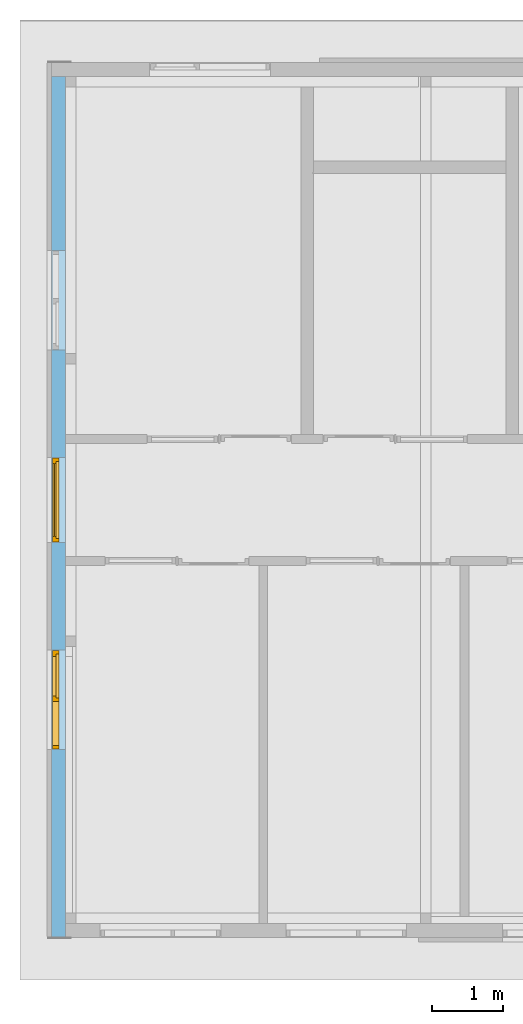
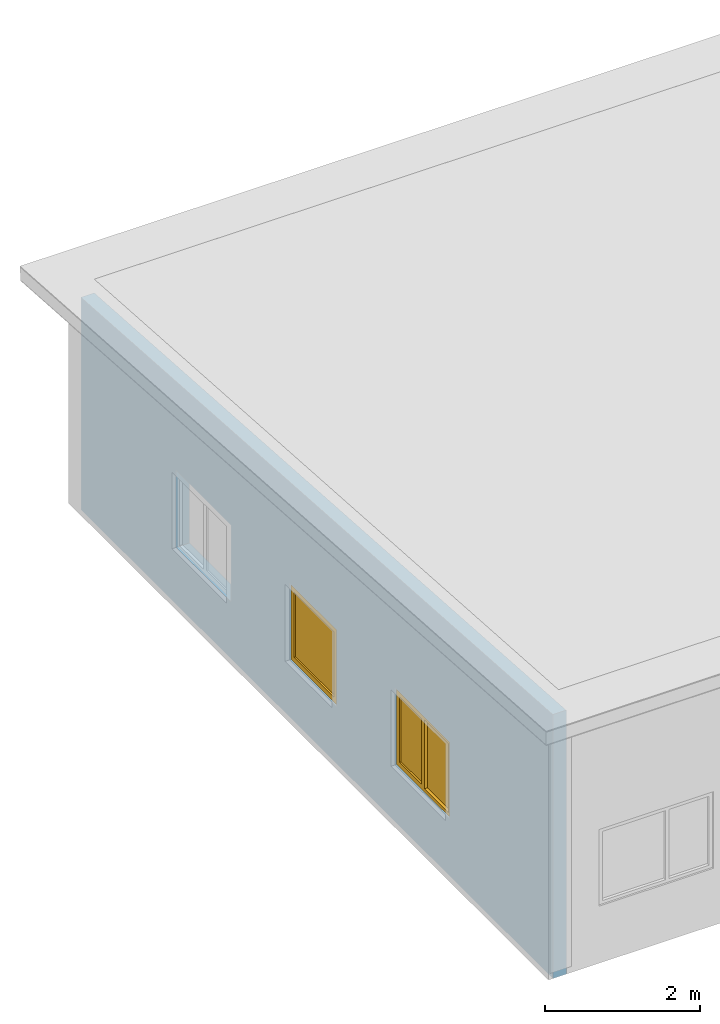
# One storey, part 6 of 37: 2 windows, 3 openings, plus 1 element that does not belong to this part.
"""IFC2X3 building model written with IfcOpenShell, lengths in millimetres."""

import ifcopenshell
import ifcopenshell.guid

model = None  # the IFC model being written
_history = None  # IfcOwnerHistory: only IFC2X3 demands one
_inside = {}  # id of a spatial element -> (the spatial element, [elements in it])
_under = {}  # id of a project, library or spatial element -> (it, [spatial elements below it])
_declared = {}  # id of a project -> (the project, [libraries it declares])
_typed = {}  # id of a type object -> (the type object, [elements of that type])
_made_of = {}  # id of a material, layer set ... -> (it, [elements and type objects made of it])


def new_model(schema):
    """Start an empty IFC model of exactly this schema.

    Asked for "IFC4X3", IfcOpenShell would pick the latest addendum, in which some entities
    have other attributes; the version numbers below select the first issue.
    IFC2X3 requires an IfcOwnerHistory on every rooted entity: one is made here for all.
    """
    global model, _history
    if schema == "IFC4X3":
        model = ifcopenshell.file(schema_version=(4, 3, 0, 0))
    else:
        model = ifcopenshell.file(schema=schema)
    _inside.clear()
    _under.clear()
    _declared.clear()
    _typed.clear()
    _made_of.clear()
    _history = None
    if model.schema == "IFC2X3":
        org = make("IfcOrganization", Name="unknown")
        user = make(
            "IfcPersonAndOrganization",
            ThePerson=make("IfcPerson", FamilyName="unknown"),
            TheOrganization=org,
        )
        app = make(
            "IfcApplication",
            ApplicationDeveloper=org,
            Version="unknown",
            ApplicationFullName="unknown",
            ApplicationIdentifier="unknown",
        )
        _history = make(
            "IfcOwnerHistory",
            OwningUser=user,
            OwningApplication=app,
            ChangeAction="ADDED",
            CreationDate=0,
        )
    return model


def make(cls, **values):
    """One entity of the class cls with the attributes given. An attribute that is None is left unset."""
    return model.create_entity(
        cls, **{name: value for name, value in values.items() if value is not None}
    )


def entity(cls, *values):
    """Any entity or typed value of the class cls, its attributes in the order of the schema. None: left unset."""
    e = model.create_entity(cls)
    for i, value in enumerate(values):
        if value is not None:
            e[i] = value
    return e


def rooted(cls, **values):
    """An entity with a GlobalId (a new one), such as an element, a storey or a relation."""
    return make(cls, GlobalId=ifcopenshell.guid.new(), OwnerHistory=_history, **values)


def si_unit(unit_type, name, prefix=None):
    """IfcSIUnit, for example si_unit("LENGTHUNIT", "METRE", prefix="MILLI")."""
    return make("IfcSIUnit", UnitType=unit_type, Prefix=prefix, Name=name)


def converted_unit(unit_type, name, factor, base, dimensions=None, offset=None):
    """IfcConversionBasedUnit, such as the inch: factor (a typed value) times the base unit."""
    return make(
        "IfcConversionBasedUnit"
        if offset is None
        else "IfcConversionBasedUnitWithOffset",
        ConversionOffset=offset,
        Dimensions=None
        if dimensions is None
        else entity("IfcDimensionalExponents", *dimensions),
        UnitType=unit_type,
        Name=name,
        ConversionFactor=make(
            "IfcMeasureWithUnit", ValueComponent=factor, UnitComponent=base
        ),
    )


def assignment(units):
    """IfcUnitAssignment: the units of a project."""
    return None if units is None else make("IfcUnitAssignment", Units=units)


def point(xyz):
    """IfcCartesianPoint."""
    return None if xyz is None else make("IfcCartesianPoint", Coordinates=xyz)


def direction(xyz):
    """IfcDirection."""
    return None if xyz is None else make("IfcDirection", DirectionRatios=xyz)


def frame(location, z_axis=None, x_axis=None):
    """IfcAxis2Placement3D, a coordinate frame: its origin and axes. An axis left out is left unset."""
    return make(
        "IfcAxis2Placement3D",
        Location=point(location),
        Axis=direction(z_axis),
        RefDirection=direction(x_axis),
    )


def frame_2d(location, x_axis=None):
    """IfcAxis2Placement2D, a coordinate frame in the plane: its origin and x axis."""
    return make(
        "IfcAxis2Placement2D", Location=point(location), RefDirection=direction(x_axis)
    )


def origin():
    """The frame at (0, 0, 0) with its axes left unset."""
    return frame((0.0, 0.0, 0.0))


def origin_with_axes():
    """The frame at (0, 0, 0) with the z axis (0, 0, 1) and the x axis (1, 0, 0) written out."""
    return frame((0.0, 0.0, 0.0), z_axis=(0.0, 0.0, 1.0), x_axis=(1.0, 0.0, 0.0))


def place(relative_to, where):
    """IfcLocalPlacement: puts the frame where relative to a parent placement (None: the world)."""
    return make(
        "IfcLocalPlacement", PlacementRelTo=relative_to, RelativePlacement=where
    )


def context(
    kind, dimensions, precision=None, world=None, true_north=None, identifier=None
):
    """IfcGeometricRepresentationContext, for example the 3D "Model" context."""
    return make(
        "IfcGeometricRepresentationContext",
        ContextIdentifier=identifier,
        ContextType=kind,
        CoordinateSpaceDimension=dimensions,
        Precision=precision,
        WorldCoordinateSystem=world,
        TrueNorth=true_north,
    )


def subcontext(parent, identifier, kind, view, scale=None):
    """IfcGeometricRepresentationSubContext, for example "Body" below "Model"."""
    return make(
        "IfcGeometricRepresentationSubContext",
        ContextIdentifier=identifier,
        ContextType=kind,
        ParentContext=parent,
        TargetScale=scale,
        TargetView=view,
    )


def project(units=None, contexts=None):
    """IfcProject with its units and contexts."""
    return rooted(
        "IfcProject",
        Name="project",
        RepresentationContexts=contexts,
        UnitsInContext=assignment(units),
    )


def spatial(cls, under=None, at=None, **own):
    """A site, building, storey or space (cls), placed at a placement, below another one or the project."""
    s = rooted(cls, ObjectPlacement=at, **own)
    if under is not None:
        _under.setdefault(under.id(), (under, []))[1].append(s)
    return s


def profile(cls, at=None, kind="AREA", **sizes):
    """A parametric profile (cls). Its sizes go by their IFC names, for example OverallWidth=200.0."""
    return make(cls, ProfileType=kind, Position=at, **sizes)


def rectangle(**sizes):
    """IfcRectangleProfileDef."""
    return profile("IfcRectangleProfileDef", **sizes)


def extrude(swept, where, along, depth):
    """IfcExtrudedAreaSolid: the profile swept, set in the frame where, extruded along a direction by depth."""
    return make(
        "IfcExtrudedAreaSolid",
        SweptArea=swept,
        Position=where,
        ExtrudedDirection=direction(along),
        Depth=depth,
    )


def clip(a, b, op="DIFFERENCE"):
    """IfcBooleanClippingResult: the solid a cut by the half space b."""
    return make(
        "IfcBooleanClippingResult", Operator=op, FirstOperand=a, SecondOperand=b
    )


def halfspace(plane, agree):
    """IfcHalfSpaceSolid: all space on one side of the plane z = 0 of the frame plane."""
    return make(
        "IfcHalfSpaceSolid",
        BaseSurface=make("IfcPlane", Position=plane),
        AgreementFlag=agree,
    )


def faces_of(points, faces, orient=None, outer=None):
    """IfcFace entities. A face is a list of loops; a loop is a list of indices into points, from 0.

    orient and outer hold one flag for each loop. By default every Orientation is true, the
    first loop of a face is its IfcFaceOuterBound and the others are IfcFaceBound.
    """
    made = []
    for i, loops in enumerate(faces):
        bounds = []
        for j, loop in enumerate(loops):
            is_outer = j == 0 if outer is None else outer[i][j]
            bounds.append(
                make(
                    "IfcFaceOuterBound" if is_outer else "IfcFaceBound",
                    Bound=make("IfcPolyLoop", Polygon=[points[k] for k in loop]),
                    Orientation=True if orient is None else orient[i][j],
                )
            )
        made.append(make("IfcFace", Bounds=bounds))
    return made


def faceted_brep(points, faces, orient=None, outer=None, voids=None):
    """IfcFacetedBrep: a solid bounded by flat faces; with voids (closed shells), ...WithVoids."""
    shared = [point(p) for p in points]
    hull = make("IfcClosedShell", CfsFaces=faces_of(shared, faces, orient, outer))
    if voids is None:
        return make("IfcFacetedBrep", Outer=hull)
    return make(
        "IfcFacetedBrepWithVoids",
        Outer=hull,
        Voids=[
            make(cls, CfsFaces=faces_of(shared, fs, o, b)) for cls, fs, o, b in voids
        ],
    )


def shape(context_of_items, identifier, shape_type, items):
    """IfcShapeRepresentation: the items that make up one representation, for example the "Body"."""
    return make(
        "IfcShapeRepresentation",
        ContextOfItems=context_of_items,
        RepresentationIdentifier=identifier,
        RepresentationType=shape_type,
        Items=items,
    )


def material(Name=None, Category=None):
    """IfcMaterial."""
    return make("IfcMaterial", Name=Name, Category=Category)


def layer(
    of_material, thickness, ventilated=None, Name=None, Category=None, Priority=None
):
    """IfcMaterialLayer: one layer of a wall or slab, of a material (None: an air gap)."""
    return make(
        "IfcMaterialLayer",
        Material=of_material,
        LayerThickness=thickness,
        IsVentilated=ventilated,
        Name=Name,
        Category=Category,
        Priority=Priority,
    )


def layer_set(layers, Name=None):
    """IfcMaterialLayerSet."""
    return make("IfcMaterialLayerSet", MaterialLayers=layers, LayerSetName=Name)


def layer_usage(for_layer_set, set_direction, sense, offset, extent=None):
    """IfcMaterialLayerSetUsage: how a layer set lies in its element."""
    return make(
        "IfcMaterialLayerSetUsage",
        ForLayerSet=for_layer_set,
        LayerSetDirection=set_direction,
        DirectionSense=sense,
        OffsetFromReferenceLine=offset,
        ReferenceExtent=extent,
    )


def made_of(thing, what):
    """Note that an element or type object is made of a material, layer set ...; save() writes the relation."""
    if what is not None:
        _made_of.setdefault(what.id(), (what, []))[1].append(thing)
    return thing


def type_object(cls, material=None, **own):
    """A type object (cls), such as IfcWallType, which elements share."""
    return made_of(rooted(cls, **own), material)


def element(
    cls,
    number,
    at=None,
    inside=None,
    cuts=None,
    type_object=None,
    material=None,
    context=None,
    identifier="Body",
    shape_type=None,
    held_by="IfcProductDefinitionShape",
    body=None,
    shapes=None,
    **own,
):
    """One element of the class cls, such as IfcWall. Its Tag is "e" and its number.

    at: its placement. inside: the storey or other place that contains it. cuts: it is an
    opening in that element (IfcRelVoidsElement). A single representation is given by context,
    identifier, shape_type and body (its items); several are given by shapes. held_by: the class
    of the entity that holds the representations. save() writes the other relations.
    """
    e = rooted(cls, Tag="e%d" % number, ObjectPlacement=at, **own)
    if body is not None:
        shapes = [shape(context, identifier, shape_type, body)]
    if shapes is not None:
        e.Representation = make(held_by, Representations=shapes)
    if inside is not None:
        _inside.setdefault(inside.id(), (inside, []))[1].append(e)
    if cuts is not None:
        rooted(
            "IfcRelVoidsElement", RelatingBuildingElement=cuts, RelatedOpeningElement=e
        )
    if type_object is not None:
        _typed.setdefault(type_object.id(), (type_object, []))[1].append(e)
    return made_of(e, material)


def fill(opening, filler):
    """IfcRelFillsElement: the door or window that sits in an opening."""
    return rooted(
        "IfcRelFillsElement",
        RelatingOpeningElement=opening,
        RelatedBuildingElement=filler,
    )


def aggregate(whole, parts):
    """IfcRelAggregates: a whole, such as a stair, and the parts it consists of."""
    return rooted("IfcRelAggregates", RelatingObject=whole, RelatedObjects=parts)


def save(model, path):
    """Write the relations noted so far, then the file.

    IfcRelAggregates (storeys below a building ...), IfcRelContainedInSpatialStructure (elements
    in a storey), IfcRelDefinesByType, IfcRelAssociatesMaterial and IfcRelDeclares: one each for
    every whole, place, type object, material and project.
    """
    for whole, parts in _under.values():
        aggregate(whole, parts)
    for where, things in _inside.values():
        rooted(
            "IfcRelContainedInSpatialStructure",
            RelatedElements=things,
            RelatingStructure=where,
        )
    for kind, things in _typed.values():
        rooted("IfcRelDefinesByType", RelatedObjects=things, RelatingType=kind)
    for what, things in _made_of.values():
        rooted("IfcRelAssociatesMaterial", RelatedObjects=things, RelatingMaterial=what)
    for by, libraries in _declared.values():
        rooted("IfcRelDeclares", RelatingContext=by, RelatedDefinitions=libraries)
    model.write(path)


model = new_model("IFC2X3")

# Units and contexts
model_context = context("Model", 3, precision=1e-05, world=origin())
plan_context = context("Plan", 3, precision=1e-05, world=origin())
body_context = subcontext(model_context, "Body", "Model", "MODEL_VIEW")
ifc_project = project(units=[si_unit("LENGTHUNIT", "METRE", prefix="MILLI"), converted_unit("PLANEANGLEUNIT", "DEGREE", entity("IfcPlaneAngleMeasure", 0.0174532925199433), si_unit("PLANEANGLEUNIT", "RADIAN"), dimensions=[0, 0, 0, 0, 0, 0, 0]), si_unit("AREAUNIT", "SQUARE_METRE"), si_unit("VOLUMEUNIT", "CUBIC_METRE")], contexts=[model_context, plan_context])

# Building, storey
building_placement = place(None, origin())
building = spatial("IfcBuilding", under=ifc_project, at=building_placement, Name="HEKF Administrasjonbygg", CompositionType="ELEMENT")
storey_placement = place(building_placement, frame((0.0, 0.0, 9900.0), z_axis=(0.0, 0.0, 1.0), x_axis=(1.0, 0.0, 0.0)))
storey = spatial("IfcBuildingStorey", under=building, at=storey_placement, Name="Plan 2", CompositionType="ELEMENT", Elevation=9900.0)

# Wall, openings, windows
ifc_material_1 = material(Name="Paroc 200")
ifc_layer = layer(ifc_material_1, 200.0)
ifc_layer_set = layer_set([ifc_layer])
ifc_layer_usage = layer_usage(ifc_layer_set, "AXIS2", "POSITIVE", 0.0)
wall_placement = place(storey_placement, frame((9899.99999999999, -12200.0, 0.0), z_axis=(0.0, 0.0, 1.0), x_axis=(5.963899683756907e-16, 1.0, 0.0)))
wall = element("IfcWallStandardCase", 1, at=wall_placement, inside=storey, material=ifc_layer_usage, context=body_context, shape_type="Clipping", body=[
    clip(extrude(rectangle(XDim=12200.0, YDim=200.0, at=frame_2d((6100.0, 100.0), x_axis=(1.0, 0.0))), origin_with_axes(), (0.0, 0.0, 1.0), 4163.33333333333), halfspace(frame((0.0, 0.0, 4163.33333333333), z_axis=(-0.06651901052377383, -3.967127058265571e-17, -0.9977851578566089), x_axis=(0.9977851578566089, 0.0, -0.06651901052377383)), True)),
])
opening_1_placement = place(wall_placement, frame((5595.0, -3.637978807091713e-12, 900.0), z_axis=(0.0, 1.0, 0.0), x_axis=(0.0, 0.0, 1.0)))
opening_1 = element("IfcOpeningElement", 2, at=opening_1_placement, cuts=wall, Name="Window opening", ObjectType="Opening", context=body_context, shape_type="SweptSolid", body=[
    extrude(rectangle(XDim=1210.0, YDim=1210.0, at=frame_2d((605.0, 605.0), x_axis=(1.0, 0.0))), origin_with_axes(), (0.0, 0.0, 1.0), 200.0),
])
opening_2_placement = place(wall_placement, frame((2664.999999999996, -1.818989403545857e-12, 900.0), z_axis=(0.0, 1.0, 0.0), x_axis=(0.0, 0.0, 1.0)))
opening_2 = element("IfcOpeningElement", 3, at=opening_2_placement, cuts=wall, Name="Window opening", ObjectType="Opening", context=body_context, shape_type="SweptSolid", body=[
    extrude(rectangle(XDim=1210.0, YDim=1410.000000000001, at=frame_2d((605.0, 705.0000000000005), x_axis=(1.0, 0.0))), origin_with_axes(), (0.0, 0.0, 1.0), 200.0),
])
opening_3_placement = place(wall_placement, frame((8324.999999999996, -5.456968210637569e-12, 900.0), z_axis=(0.0, 1.0, 0.0), x_axis=(0.0, 0.0, 1.0)))
element("IfcOpeningElement", 4, at=opening_3_placement, cuts=wall, Name="Window opening", ObjectType="Opening", context=body_context, shape_type="SweptSolid", body=[
    extrude(rectangle(XDim=1210.0, YDim=1410.0, at=frame_2d((605.0, 705.0), x_axis=(1.0, 0.0))), origin_with_axes(), (0.0, 0.0, 1.0), 200.0),
])
ifc_material_2 = material()
window_style_1 = type_object("IfcWindowStyle", Name="V216", ConstructionType="NOTDEFINED", OperationType="USERDEFINED", ParameterTakesPrecedence=False, Sizeable=False)
window_1_placement = place(opening_1_placement, frame((0.0, 0.0, 0.0), z_axis=(1.0, 0.0, 0.0), x_axis=(0.0, 1.0, 0.0)))
window_1 = element("IfcWindow", 5, at=window_1_placement, inside=storey, type_object=window_style_1, material=ifc_material_2, Name="V216", OverallHeight=1210.0, OverallWidth=1210.0, context=body_context, shape_type="Brep", body=[
    faceted_brep([(9.999999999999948, 186.0, 1200.0), (9.999999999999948, 185.9999999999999, 9.999999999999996), (59.99999999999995, 186.0, 9.999999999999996), (59.99999999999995, 186.0000000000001, 1200.0), (9.999999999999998, 94.00000000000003, 10.0), (9.999999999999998, 94.0000000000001, 1200.0), (60.0, 94.00000000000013, 1200.0), (60.0, 94.00000000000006, 10.0), (9.999999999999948, 185.9999999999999, 9.999999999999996), (9.999999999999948, 186.0, 1200.0), (9.999999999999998, 94.0000000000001, 1200.0), (9.999999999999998, 94.00000000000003, 10.0), (59.99999999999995, 186.0, 9.999999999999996), (9.999999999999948, 185.9999999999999, 9.999999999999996), (9.999999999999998, 94.00000000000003, 10.0), (60.0, 94.00000000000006, 10.0), (59.99999999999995, 186.0000000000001, 1200.0), (59.99999999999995, 186.0, 9.999999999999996), (60.0, 94.00000000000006, 10.0), (60.0, 94.00000000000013, 1200.0), (9.999999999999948, 186.0, 1200.0), (59.99999999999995, 186.0000000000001, 1200.0), (60.0, 94.00000000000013, 1200.0), (9.999999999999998, 94.0000000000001, 1200.0)], [[[0, 1, 2, 3]], [[4, 5, 6, 7]], [[8, 9, 10, 11]], [[12, 13, 14, 15]], [[16, 17, 18, 19]], [[20, 21, 22, 23]]], orient=[[False], [False], [False], [False], [False], [False]]),
    faceted_brep([(1150.0, 186.0000000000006, 1200.0), (1150.0, 186.0000000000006, 9.999999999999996), (1200.0, 186.0000000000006, 9.999999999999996), (1200.0, 186.0000000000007, 1200.0), (1150.0, 94.00000000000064, 10.0), (1150.0, 94.00000000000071, 1200.0), (1200.0, 94.00000000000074, 1200.0), (1200.0, 94.00000000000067, 10.0), (1150.0, 186.0000000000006, 9.999999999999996), (1150.0, 186.0000000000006, 1200.0), (1150.0, 94.00000000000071, 1200.0), (1150.0, 94.00000000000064, 10.0), (1200.0, 186.0000000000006, 9.999999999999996), (1150.0, 186.0000000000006, 9.999999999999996), (1150.0, 94.00000000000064, 10.0), (1200.0, 94.00000000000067, 10.0), (1200.0, 186.0000000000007, 1200.0), (1200.0, 186.0000000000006, 9.999999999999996), (1200.0, 94.00000000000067, 10.0), (1200.0, 94.00000000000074, 1200.0), (1150.0, 186.0000000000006, 1200.0), (1200.0, 186.0000000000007, 1200.0), (1200.0, 94.00000000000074, 1200.0), (1150.0, 94.00000000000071, 1200.0)], [[[0, 1, 2, 3]], [[4, 5, 6, 7]], [[8, 9, 10, 11]], [[12, 13, 14, 15]], [[16, 17, 18, 19]], [[20, 21, 22, 23]]], orient=[[False], [False], [False], [False], [False], [False]]),
    faceted_brep([(59.99999999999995, 186.0, 60.0), (59.99999999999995, 186.0, 9.999999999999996), (1150.0, 186.0000000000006, 9.999999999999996), (1150.0, 186.0000000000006, 60.0), (60.0, 94.00000000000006, 10.0), (60.0, 94.00000000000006, 60.0), (1150.0, 94.00000000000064, 60.0), (1150.0, 94.00000000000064, 10.0), (59.99999999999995, 186.0, 9.999999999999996), (59.99999999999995, 186.0, 60.0), (60.0, 94.00000000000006, 60.0), (60.0, 94.00000000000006, 10.0), (1150.0, 186.0000000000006, 9.999999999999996), (59.99999999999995, 186.0, 9.999999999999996), (60.0, 94.00000000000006, 10.0), (1150.0, 94.00000000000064, 10.0), (1150.0, 186.0000000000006, 60.0), (1150.0, 186.0000000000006, 9.999999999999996), (1150.0, 94.00000000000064, 10.0), (1150.0, 94.00000000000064, 60.0), (59.99999999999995, 186.0, 60.0), (1150.0, 186.0000000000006, 60.0), (1150.0, 94.00000000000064, 60.0), (60.0, 94.00000000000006, 60.0)], [[[0, 1, 2, 3]], [[4, 5, 6, 7]], [[8, 9, 10, 11]], [[12, 13, 14, 15]], [[16, 17, 18, 19]], [[20, 21, 22, 23]]], orient=[[False], [False], [False], [False], [False], [False]]),
    faceted_brep([(59.99999999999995, 186.0000000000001, 1200.0), (59.99999999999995, 186.0000000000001, 1150.0), (1150.0, 186.0000000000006, 1150.0), (1150.0, 186.0000000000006, 1200.0), (60.0, 94.00000000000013, 1150.0), (60.0, 94.00000000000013, 1200.0), (1150.0, 94.00000000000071, 1200.0), (1150.0, 94.00000000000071, 1150.0), (59.99999999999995, 186.0000000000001, 1150.0), (59.99999999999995, 186.0000000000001, 1200.0), (60.0, 94.00000000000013, 1200.0), (60.0, 94.00000000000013, 1150.0), (1150.0, 186.0000000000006, 1150.0), (59.99999999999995, 186.0000000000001, 1150.0), (60.0, 94.00000000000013, 1150.0), (1150.0, 94.00000000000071, 1150.0), (1150.0, 186.0000000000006, 1200.0), (1150.0, 186.0000000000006, 1150.0), (1150.0, 94.00000000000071, 1150.0), (1150.0, 94.00000000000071, 1200.0), (59.99999999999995, 186.0000000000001, 1200.0), (1150.0, 186.0000000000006, 1200.0), (1150.0, 94.00000000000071, 1200.0), (60.0, 94.00000000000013, 1200.0)], [[[0, 1, 2, 3]], [[4, 5, 6, 7]], [[8, 9, 10, 11]], [[12, 13, 14, 15]], [[16, 17, 18, 19]], [[20, 21, 22, 23]]], orient=[[False], [False], [False], [False], [False], [False]]),
    faceted_brep([(39.99999999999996, 186.0000000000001, 1170.0), (39.99999999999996, 186.0, 40.00000000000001), (89.99999999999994, 186.0, 40.00000000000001), (89.99999999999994, 186.0000000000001, 1170.0), (39.99999999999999, 136.0, 40.00000000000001), (39.99999999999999, 136.0000000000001, 1170.0), (89.99999999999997, 136.0000000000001, 1170.0), (89.99999999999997, 136.0000000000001, 40.00000000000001), (39.99999999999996, 186.0, 40.00000000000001), (39.99999999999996, 186.0000000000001, 1170.0), (39.99999999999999, 136.0000000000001, 1170.0), (39.99999999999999, 136.0, 40.00000000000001), (89.99999999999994, 186.0, 40.00000000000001), (39.99999999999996, 186.0, 40.00000000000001), (39.99999999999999, 136.0, 40.00000000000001), (89.99999999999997, 136.0000000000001, 40.00000000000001), (89.99999999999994, 186.0000000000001, 1170.0), (89.99999999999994, 186.0, 40.00000000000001), (89.99999999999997, 136.0000000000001, 40.00000000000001), (89.99999999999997, 136.0000000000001, 1170.0), (39.99999999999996, 186.0000000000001, 1170.0), (89.99999999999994, 186.0000000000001, 1170.0), (89.99999999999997, 136.0000000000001, 1170.0), (39.99999999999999, 136.0000000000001, 1170.0)], [[[0, 1, 2, 3]], [[4, 5, 6, 7]], [[8, 9, 10, 11]], [[12, 13, 14, 15]], [[16, 17, 18, 19]], [[20, 21, 22, 23]]], orient=[[False], [False], [False], [False], [False], [False]]),
    faceted_brep([(1120.0, 186.0000000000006, 1170.0), (1120.0, 186.0000000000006, 40.00000000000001), (1170.0, 186.0000000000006, 40.00000000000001), (1170.0, 186.0000000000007, 1170.0), (1120.0, 136.0000000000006, 40.00000000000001), (1120.0, 136.0000000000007, 1170.0), (1170.0, 136.0000000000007, 1170.0), (1170.0, 136.0000000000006, 40.00000000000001), (1120.0, 186.0000000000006, 40.00000000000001), (1120.0, 186.0000000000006, 1170.0), (1120.0, 136.0000000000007, 1170.0), (1120.0, 136.0000000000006, 40.00000000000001), (1170.0, 186.0000000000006, 40.00000000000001), (1120.0, 186.0000000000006, 40.00000000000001), (1120.0, 136.0000000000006, 40.00000000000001), (1170.0, 136.0000000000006, 40.00000000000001), (1170.0, 186.0000000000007, 1170.0), (1170.0, 186.0000000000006, 40.00000000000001), (1170.0, 136.0000000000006, 40.00000000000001), (1170.0, 136.0000000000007, 1170.0), (1120.0, 186.0000000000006, 1170.0), (1170.0, 186.0000000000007, 1170.0), (1170.0, 136.0000000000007, 1170.0), (1120.0, 136.0000000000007, 1170.0)], [[[0, 1, 2, 3]], [[4, 5, 6, 7]], [[8, 9, 10, 11]], [[12, 13, 14, 15]], [[16, 17, 18, 19]], [[20, 21, 22, 23]]], orient=[[False], [False], [False], [False], [False], [False]]),
    faceted_brep([(89.99999999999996, 186.0, 90.0), (89.99999999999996, 186.0, 40.00000000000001), (1120.0, 186.0000000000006, 40.00000000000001), (1120.0, 186.0000000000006, 90.0), (89.99999999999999, 136.0000000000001, 40.00000000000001), (89.99999999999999, 136.0000000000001, 90.0), (1120.0, 136.0000000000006, 90.0), (1120.0, 136.0000000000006, 40.00000000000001), (89.99999999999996, 186.0, 40.00000000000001), (89.99999999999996, 186.0, 90.0), (89.99999999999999, 136.0000000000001, 90.0), (89.99999999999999, 136.0000000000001, 40.00000000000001), (1120.0, 186.0000000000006, 40.00000000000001), (89.99999999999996, 186.0, 40.00000000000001), (89.99999999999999, 136.0000000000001, 40.00000000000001), (1120.0, 136.0000000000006, 40.00000000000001), (1120.0, 186.0000000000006, 90.0), (1120.0, 186.0000000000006, 40.00000000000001), (1120.0, 136.0000000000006, 40.00000000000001), (1120.0, 136.0000000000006, 90.0), (89.99999999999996, 186.0, 90.0), (1120.0, 186.0000000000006, 90.0), (1120.0, 136.0000000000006, 90.0), (89.99999999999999, 136.0000000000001, 90.0)], [[[0, 1, 2, 3]], [[4, 5, 6, 7]], [[8, 9, 10, 11]], [[12, 13, 14, 15]], [[16, 17, 18, 19]], [[20, 21, 22, 23]]], orient=[[False], [False], [False], [False], [False], [False]]),
    faceted_brep([(89.99999999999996, 186.0000000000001, 1170.0), (89.99999999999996, 186.0000000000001, 1120.0), (1120.0, 186.0000000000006, 1120.0), (1120.0, 186.0000000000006, 1170.0), (89.99999999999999, 136.0000000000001, 1120.0), (89.99999999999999, 136.0000000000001, 1170.0), (1120.0, 136.0000000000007, 1170.0), (1120.0, 136.0000000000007, 1120.0), (89.99999999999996, 186.0000000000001, 1120.0), (89.99999999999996, 186.0000000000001, 1170.0), (89.99999999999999, 136.0000000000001, 1170.0), (89.99999999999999, 136.0000000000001, 1120.0), (1120.0, 186.0000000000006, 1120.0), (89.99999999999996, 186.0000000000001, 1120.0), (89.99999999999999, 136.0000000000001, 1120.0), (1120.0, 136.0000000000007, 1120.0), (1120.0, 186.0000000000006, 1170.0), (1120.0, 186.0000000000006, 1120.0), (1120.0, 136.0000000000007, 1120.0), (1120.0, 136.0000000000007, 1170.0), (89.99999999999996, 186.0000000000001, 1170.0), (1120.0, 186.0000000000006, 1170.0), (1120.0, 136.0000000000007, 1170.0), (89.99999999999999, 136.0000000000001, 1170.0)], [[[0, 1, 2, 3]], [[4, 5, 6, 7]], [[8, 9, 10, 11]], [[12, 13, 14, 15]], [[16, 17, 18, 19]], [[20, 21, 22, 23]]], orient=[[False], [False], [False], [False], [False], [False]]),
    faceted_brep([(89.99999999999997, 161.0000000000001, 90.00000000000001), (1120.0, 161.0000000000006, 90.00000000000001), (1120.0, 161.0000000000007, 1120.0), (89.99999999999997, 161.0000000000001, 1120.0), (89.99999999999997, 160.0000000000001, 90.00000000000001), (89.99999999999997, 160.0000000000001, 1120.0), (1120.0, 160.0000000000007, 1120.0), (1120.0, 160.0000000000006, 90.00000000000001), (89.99999999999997, 161.0000000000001, 90.00000000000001), (89.99999999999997, 160.0000000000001, 90.00000000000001), (1120.0, 160.0000000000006, 90.00000000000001), (1120.0, 161.0000000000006, 90.00000000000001), (1120.0, 161.0000000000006, 90.00000000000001), (1120.0, 160.0000000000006, 90.00000000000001), (1120.0, 160.0000000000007, 1120.0), (1120.0, 161.0000000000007, 1120.0), (1120.0, 161.0000000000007, 1120.0), (1120.0, 160.0000000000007, 1120.0), (89.99999999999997, 160.0000000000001, 1120.0), (89.99999999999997, 161.0000000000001, 1120.0), (89.99999999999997, 161.0000000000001, 1120.0), (89.99999999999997, 160.0000000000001, 1120.0), (89.99999999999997, 160.0000000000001, 90.00000000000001), (89.99999999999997, 161.0000000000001, 90.00000000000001)], [[[0, 1, 2, 3]], [[4, 5, 6, 7]], [[8, 9, 10, 11]], [[12, 13, 14, 15]], [[16, 17, 18, 19]], [[20, 21, 22, 23]]], orient=[[False], [False], [False], [False], [False], [False]]),
])
fill(opening_1, window_1)
ifc_material_3 = material()
window_style_2 = type_object("IfcWindowStyle", Name="V217", ConstructionType="NOTDEFINED", OperationType="USERDEFINED", ParameterTakesPrecedence=False, Sizeable=False)
window_2_placement = place(opening_2_placement, frame((0.0, 0.0, 0.0), z_axis=(1.0, 0.0, 0.0), x_axis=(0.0, 1.0, 0.0)))
window_2 = element("IfcWindow", 6, at=window_2_placement, inside=storey, type_object=window_style_2, material=ifc_material_3, Name="V217", OverallHeight=1210.0, OverallWidth=1410.0, context=body_context, shape_type="Brep", body=[
    faceted_brep([(10.00000000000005, 93.99999999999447, 1200.0), (60.00000000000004, 93.9999999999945, 1200.0), (60.00000000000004, 93.99999999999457, 9.999999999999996), (10.00000000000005, 93.99999999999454, 9.999999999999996), (10.0, 185.9999999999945, 10.0), (59.99999999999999, 185.9999999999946, 10.0), (59.99999999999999, 185.9999999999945, 1200.0), (10.0, 185.9999999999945, 1200.0), (10.00000000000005, 93.99999999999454, 9.999999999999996), (10.0, 185.9999999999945, 10.0), (10.0, 185.9999999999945, 1200.0), (10.00000000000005, 93.99999999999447, 1200.0), (60.00000000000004, 93.99999999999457, 9.999999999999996), (59.99999999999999, 185.9999999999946, 10.0), (10.0, 185.9999999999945, 10.0), (10.00000000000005, 93.99999999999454, 9.999999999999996), (60.00000000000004, 93.9999999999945, 1200.0), (59.99999999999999, 185.9999999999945, 1200.0), (59.99999999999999, 185.9999999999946, 10.0), (60.00000000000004, 93.99999999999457, 9.999999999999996), (10.00000000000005, 93.99999999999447, 1200.0), (10.0, 185.9999999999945, 1200.0), (59.99999999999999, 185.9999999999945, 1200.0), (60.00000000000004, 93.9999999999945, 1200.0)], [[[0, 1, 2, 3]], [[4, 5, 6, 7]], [[8, 9, 10, 11]], [[12, 13, 14, 15]], [[16, 17, 18, 19]], [[20, 21, 22, 23]]], orient=[[False], [False], [False], [False], [False], [False]]),
    faceted_brep([(1350.0, 93.9999999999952, 1200.0), (1400.0, 93.99999999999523, 1200.0), (1400.0, 93.9999999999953, 9.999999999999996), (1350.0, 93.99999999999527, 9.999999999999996), (1350.0, 185.9999999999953, 10.0), (1400.0, 185.9999999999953, 10.0), (1400.0, 185.9999999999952, 1200.0), (1350.0, 185.9999999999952, 1200.0), (1350.0, 93.99999999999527, 9.999999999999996), (1350.0, 185.9999999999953, 10.0), (1350.0, 185.9999999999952, 1200.0), (1350.0, 93.9999999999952, 1200.0), (1400.0, 93.9999999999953, 9.999999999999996), (1400.0, 185.9999999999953, 10.0), (1350.0, 185.9999999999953, 10.0), (1350.0, 93.99999999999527, 9.999999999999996), (1400.0, 93.99999999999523, 1200.0), (1400.0, 185.9999999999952, 1200.0), (1400.0, 185.9999999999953, 10.0), (1400.0, 93.9999999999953, 9.999999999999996), (1350.0, 93.9999999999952, 1200.0), (1350.0, 185.9999999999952, 1200.0), (1400.0, 185.9999999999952, 1200.0), (1400.0, 93.99999999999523, 1200.0)], [[[0, 1, 2, 3]], [[4, 5, 6, 7]], [[8, 9, 10, 11]], [[12, 13, 14, 15]], [[16, 17, 18, 19]], [[20, 21, 22, 23]]], orient=[[False], [False], [False], [False], [False], [False]]),
    faceted_brep([(60.00000000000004, 93.99999999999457, 60.0), (1350.0, 93.99999999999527, 60.0), (1350.0, 93.99999999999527, 9.999999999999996), (60.00000000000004, 93.99999999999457, 9.999999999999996), (59.99999999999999, 185.9999999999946, 10.0), (1350.0, 185.9999999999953, 10.0), (1350.0, 185.9999999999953, 60.0), (59.99999999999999, 185.9999999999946, 60.0), (60.00000000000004, 93.99999999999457, 9.999999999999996), (59.99999999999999, 185.9999999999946, 10.0), (59.99999999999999, 185.9999999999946, 60.0), (60.00000000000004, 93.99999999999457, 60.0), (1350.0, 93.99999999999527, 9.999999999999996), (1350.0, 185.9999999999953, 10.0), (59.99999999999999, 185.9999999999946, 10.0), (60.00000000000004, 93.99999999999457, 9.999999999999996), (1350.0, 93.99999999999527, 60.0), (1350.0, 185.9999999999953, 60.0), (1350.0, 185.9999999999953, 10.0), (1350.0, 93.99999999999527, 9.999999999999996), (60.00000000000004, 93.99999999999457, 60.0), (59.99999999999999, 185.9999999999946, 60.0), (1350.0, 185.9999999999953, 60.0), (1350.0, 93.99999999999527, 60.0)], [[[0, 1, 2, 3]], [[4, 5, 6, 7]], [[8, 9, 10, 11]], [[12, 13, 14, 15]], [[16, 17, 18, 19]], [[20, 21, 22, 23]]], orient=[[False], [False], [False], [False], [False], [False]]),
    faceted_brep([(60.00000000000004, 93.9999999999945, 1200.0), (1350.0, 93.9999999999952, 1200.0), (1350.0, 93.9999999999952, 1150.0), (60.00000000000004, 93.9999999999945, 1150.0), (59.99999999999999, 185.9999999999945, 1150.0), (1350.0, 185.9999999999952, 1150.0), (1350.0, 185.9999999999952, 1200.0), (59.99999999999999, 185.9999999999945, 1200.0), (60.00000000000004, 93.9999999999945, 1150.0), (59.99999999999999, 185.9999999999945, 1150.0), (59.99999999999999, 185.9999999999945, 1200.0), (60.00000000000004, 93.9999999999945, 1200.0), (1350.0, 93.9999999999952, 1150.0), (1350.0, 185.9999999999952, 1150.0), (59.99999999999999, 185.9999999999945, 1150.0), (60.00000000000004, 93.9999999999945, 1150.0), (1350.0, 93.9999999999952, 1200.0), (1350.0, 185.9999999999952, 1200.0), (1350.0, 185.9999999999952, 1150.0), (1350.0, 93.9999999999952, 1150.0), (60.00000000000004, 93.9999999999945, 1200.0), (59.99999999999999, 185.9999999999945, 1200.0), (1350.0, 185.9999999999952, 1200.0), (1350.0, 93.9999999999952, 1200.0)], [[[0, 1, 2, 3]], [[4, 5, 6, 7]], [[8, 9, 10, 11]], [[12, 13, 14, 15]], [[16, 17, 18, 19]], [[20, 21, 22, 23]]], orient=[[False], [False], [False], [False], [False], [False]]),
    faceted_brep([(679.9999999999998, 93.99999999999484, 1150.0), (729.9999999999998, 93.99999999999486, 1150.0), (729.9999999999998, 93.99999999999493, 60.00000000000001), (679.9999999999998, 93.99999999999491, 60.00000000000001), (679.9999999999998, 185.9999999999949, 60.00000000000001), (729.9999999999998, 185.9999999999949, 60.00000000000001), (729.9999999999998, 185.9999999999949, 1150.0), (679.9999999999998, 185.9999999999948, 1150.0), (679.9999999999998, 93.99999999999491, 60.00000000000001), (679.9999999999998, 185.9999999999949, 60.00000000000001), (679.9999999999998, 185.9999999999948, 1150.0), (679.9999999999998, 93.99999999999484, 1150.0), (729.9999999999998, 93.99999999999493, 60.00000000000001), (729.9999999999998, 185.9999999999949, 60.00000000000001), (679.9999999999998, 185.9999999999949, 60.00000000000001), (679.9999999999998, 93.99999999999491, 60.00000000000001), (729.9999999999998, 93.99999999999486, 1150.0), (729.9999999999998, 185.9999999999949, 1150.0), (729.9999999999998, 185.9999999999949, 60.00000000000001), (729.9999999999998, 93.99999999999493, 60.00000000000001), (679.9999999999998, 93.99999999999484, 1150.0), (679.9999999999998, 185.9999999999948, 1150.0), (729.9999999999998, 185.9999999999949, 1150.0), (729.9999999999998, 93.99999999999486, 1150.0)], [[[0, 1, 2, 3]], [[4, 5, 6, 7]], [[8, 9, 10, 11]], [[12, 13, 14, 15]], [[16, 17, 18, 19]], [[20, 21, 22, 23]]], orient=[[False], [False], [False], [False], [False], [False]]),
    faceted_brep([(60.00000000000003, 139.9999999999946, 60.00000000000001), (60.00000000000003, 139.9999999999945, 1150.0), (679.9999999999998, 139.9999999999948, 1150.0), (679.9999999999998, 139.9999999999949, 60.00000000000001), (60.00000000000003, 140.9999999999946, 60.00000000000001), (679.9999999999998, 140.9999999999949, 60.00000000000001), (679.9999999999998, 140.9999999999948, 1150.0), (60.00000000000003, 140.9999999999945, 1150.0), (60.00000000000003, 139.9999999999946, 60.00000000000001), (60.00000000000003, 140.9999999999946, 60.00000000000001), (60.00000000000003, 140.9999999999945, 1150.0), (60.00000000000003, 139.9999999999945, 1150.0), (60.00000000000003, 139.9999999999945, 1150.0), (60.00000000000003, 140.9999999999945, 1150.0), (679.9999999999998, 140.9999999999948, 1150.0), (679.9999999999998, 139.9999999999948, 1150.0), (679.9999999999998, 139.9999999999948, 1150.0), (679.9999999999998, 140.9999999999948, 1150.0), (679.9999999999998, 140.9999999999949, 60.00000000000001), (679.9999999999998, 139.9999999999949, 60.00000000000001), (679.9999999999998, 139.9999999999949, 60.00000000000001), (679.9999999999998, 140.9999999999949, 60.00000000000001), (60.00000000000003, 140.9999999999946, 60.00000000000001), (60.00000000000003, 139.9999999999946, 60.00000000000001)], [[[0, 1, 2, 3]], [[4, 5, 6, 7]], [[8, 9, 10, 11]], [[12, 13, 14, 15]], [[16, 17, 18, 19]], [[20, 21, 22, 23]]], orient=[[False], [False], [False], [False], [False], [False]]),
    faceted_brep([(709.9999999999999, 135.9999999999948, 1170.0), (759.9999999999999, 135.9999999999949, 1170.0), (759.9999999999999, 135.9999999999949, 40.0), (709.9999999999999, 135.9999999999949, 40.0), (709.9999999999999, 185.9999999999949, 40.0), (759.9999999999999, 185.9999999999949, 40.0), (759.9999999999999, 185.9999999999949, 1170.0), (709.9999999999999, 185.9999999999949, 1170.0), (709.9999999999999, 135.9999999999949, 40.0), (709.9999999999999, 185.9999999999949, 40.0), (709.9999999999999, 185.9999999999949, 1170.0), (709.9999999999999, 135.9999999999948, 1170.0), (759.9999999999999, 135.9999999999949, 40.0), (759.9999999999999, 185.9999999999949, 40.0), (709.9999999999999, 185.9999999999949, 40.0), (709.9999999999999, 135.9999999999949, 40.0), (759.9999999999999, 135.9999999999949, 1170.0), (759.9999999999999, 185.9999999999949, 1170.0), (759.9999999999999, 185.9999999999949, 40.0), (759.9999999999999, 135.9999999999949, 40.0), (709.9999999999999, 135.9999999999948, 1170.0), (709.9999999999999, 185.9999999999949, 1170.0), (759.9999999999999, 185.9999999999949, 1170.0), (759.9999999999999, 135.9999999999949, 1170.0)], [[[0, 1, 2, 3]], [[4, 5, 6, 7]], [[8, 9, 10, 11]], [[12, 13, 14, 15]], [[16, 17, 18, 19]], [[20, 21, 22, 23]]], orient=[[False], [False], [False], [False], [False], [False]]),
    faceted_brep([(1320.0, 135.9999999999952, 1170.0), (1370.0, 135.9999999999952, 1170.0), (1370.0, 135.9999999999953, 40.0), (1320.0, 135.9999999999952, 40.0), (1320.0, 185.9999999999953, 40.0), (1370.0, 185.9999999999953, 40.0), (1370.0, 185.9999999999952, 1170.0), (1320.0, 185.9999999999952, 1170.0), (1320.0, 135.9999999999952, 40.0), (1320.0, 185.9999999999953, 40.0), (1320.0, 185.9999999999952, 1170.0), (1320.0, 135.9999999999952, 1170.0), (1370.0, 135.9999999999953, 40.0), (1370.0, 185.9999999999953, 40.0), (1320.0, 185.9999999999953, 40.0), (1320.0, 135.9999999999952, 40.0), (1370.0, 135.9999999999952, 1170.0), (1370.0, 185.9999999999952, 1170.0), (1370.0, 185.9999999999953, 40.0), (1370.0, 135.9999999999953, 40.0), (1320.0, 135.9999999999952, 1170.0), (1320.0, 185.9999999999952, 1170.0), (1370.0, 185.9999999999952, 1170.0), (1370.0, 135.9999999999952, 1170.0)], [[[0, 1, 2, 3]], [[4, 5, 6, 7]], [[8, 9, 10, 11]], [[12, 13, 14, 15]], [[16, 17, 18, 19]], [[20, 21, 22, 23]]], orient=[[False], [False], [False], [False], [False], [False]]),
    faceted_brep([(759.9999999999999, 135.9999999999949, 90.0), (1320.0, 135.9999999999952, 90.0), (1320.0, 135.9999999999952, 40.0), (759.9999999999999, 135.9999999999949, 40.0), (759.9999999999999, 185.9999999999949, 40.0), (1320.0, 185.9999999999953, 40.0), (1320.0, 185.9999999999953, 90.0), (759.9999999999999, 185.9999999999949, 90.0), (759.9999999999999, 135.9999999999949, 40.0), (759.9999999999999, 185.9999999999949, 40.0), (759.9999999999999, 185.9999999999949, 90.0), (759.9999999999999, 135.9999999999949, 90.0), (1320.0, 135.9999999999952, 40.0), (1320.0, 185.9999999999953, 40.0), (759.9999999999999, 185.9999999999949, 40.0), (759.9999999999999, 135.9999999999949, 40.0), (1320.0, 135.9999999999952, 90.0), (1320.0, 185.9999999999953, 90.0), (1320.0, 185.9999999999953, 40.0), (1320.0, 135.9999999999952, 40.0), (759.9999999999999, 135.9999999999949, 90.0), (759.9999999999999, 185.9999999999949, 90.0), (1320.0, 185.9999999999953, 90.0), (1320.0, 135.9999999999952, 90.0)], [[[0, 1, 2, 3]], [[4, 5, 6, 7]], [[8, 9, 10, 11]], [[12, 13, 14, 15]], [[16, 17, 18, 19]], [[20, 21, 22, 23]]], orient=[[False], [False], [False], [False], [False], [False]]),
    faceted_brep([(759.9999999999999, 135.9999999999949, 1170.0), (1320.0, 135.9999999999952, 1170.0), (1320.0, 135.9999999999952, 1120.0), (759.9999999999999, 135.9999999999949, 1120.0), (759.9999999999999, 185.9999999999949, 1120.0), (1320.0, 185.9999999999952, 1120.0), (1320.0, 185.9999999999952, 1170.0), (759.9999999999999, 185.9999999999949, 1170.0), (759.9999999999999, 135.9999999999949, 1120.0), (759.9999999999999, 185.9999999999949, 1120.0), (759.9999999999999, 185.9999999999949, 1170.0), (759.9999999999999, 135.9999999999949, 1170.0), (1320.0, 135.9999999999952, 1120.0), (1320.0, 185.9999999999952, 1120.0), (759.9999999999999, 185.9999999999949, 1120.0), (759.9999999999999, 135.9999999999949, 1120.0), (1320.0, 135.9999999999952, 1170.0), (1320.0, 185.9999999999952, 1170.0), (1320.0, 185.9999999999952, 1120.0), (1320.0, 135.9999999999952, 1120.0), (759.9999999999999, 135.9999999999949, 1170.0), (759.9999999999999, 185.9999999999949, 1170.0), (1320.0, 185.9999999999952, 1170.0), (1320.0, 135.9999999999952, 1170.0)], [[[0, 1, 2, 3]], [[4, 5, 6, 7]], [[8, 9, 10, 11]], [[12, 13, 14, 15]], [[16, 17, 18, 19]], [[20, 21, 22, 23]]], orient=[[False], [False], [False], [False], [False], [False]]),
    faceted_brep([(759.9999999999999, 160.9999999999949, 90.00000000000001), (759.9999999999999, 160.9999999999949, 1120.0), (1320.0, 160.9999999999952, 1120.0), (1320.0, 160.9999999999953, 90.00000000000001), (759.9999999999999, 161.9999999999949, 90.00000000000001), (1320.0, 161.9999999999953, 90.00000000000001), (1320.0, 161.9999999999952, 1120.0), (759.9999999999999, 161.9999999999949, 1120.0), (759.9999999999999, 160.9999999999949, 90.00000000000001), (759.9999999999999, 161.9999999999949, 90.00000000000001), (759.9999999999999, 161.9999999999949, 1120.0), (759.9999999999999, 160.9999999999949, 1120.0), (759.9999999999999, 160.9999999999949, 1120.0), (759.9999999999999, 161.9999999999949, 1120.0), (1320.0, 161.9999999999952, 1120.0), (1320.0, 160.9999999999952, 1120.0), (1320.0, 160.9999999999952, 1120.0), (1320.0, 161.9999999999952, 1120.0), (1320.0, 161.9999999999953, 90.00000000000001), (1320.0, 160.9999999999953, 90.00000000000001), (1320.0, 160.9999999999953, 90.00000000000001), (1320.0, 161.9999999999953, 90.00000000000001), (759.9999999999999, 161.9999999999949, 90.00000000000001), (759.9999999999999, 160.9999999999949, 90.00000000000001)], [[[0, 1, 2, 3]], [[4, 5, 6, 7]], [[8, 9, 10, 11]], [[12, 13, 14, 15]], [[16, 17, 18, 19]], [[20, 21, 22, 23]]], orient=[[False], [False], [False], [False], [False], [False]]),
])
fill(opening_2, window_2)

save(model, "model.ifc")
